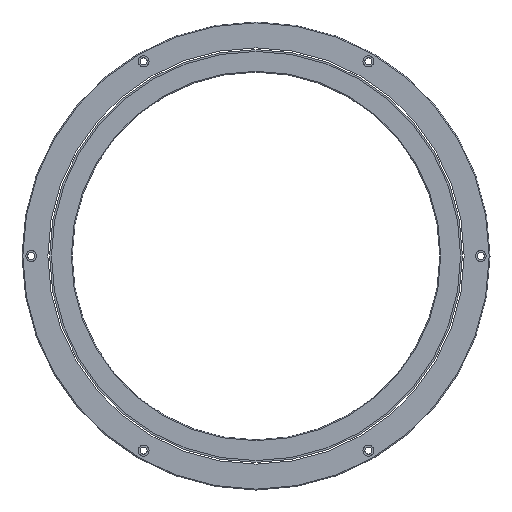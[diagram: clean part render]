
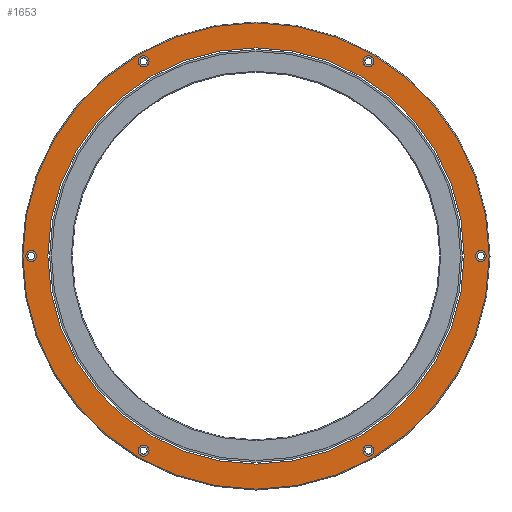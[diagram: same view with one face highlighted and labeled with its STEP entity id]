
A CAD part, front view. The second image highlights one B-rep face of the part: STEP entity #1653.
In plain terms, the highlighted planar face has unit normal (0, -1, 0).
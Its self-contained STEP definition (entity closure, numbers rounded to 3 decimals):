
#371=CARTESIAN_POINT('',(0.,0.,0.));
#372=DIRECTION('',(0.,-1.,0.));
#373=DIRECTION('',(-1.,0.,0.));
#374=AXIS2_PLACEMENT_3D('',#371,#372,#373);
#376=CARTESIAN_POINT('',(0.,0.,0.));
#377=DIRECTION('',(0.,1.,0.));
#378=DIRECTION('',(-1.,0.,0.));
#379=AXIS2_PLACEMENT_3D('',#376,#377,#378);
#381=CARTESIAN_POINT('',(-134.5,0.,0.));
#382=DIRECTION('',(0.,1.,0.));
#383=DIRECTION('',(1.,0.,0.));
#384=AXIS2_PLACEMENT_3D('',#381,#382,#383);
#386=CARTESIAN_POINT('',(-134.5,0.,0.));
#387=DIRECTION('',(0.,1.,0.));
#388=DIRECTION('',(-1.,0.,0.));
#389=AXIS2_PLACEMENT_3D('',#386,#387,#388);
#391=CARTESIAN_POINT('',(-67.25,0.,116.48));
#392=DIRECTION('',(0.,1.,0.));
#393=DIRECTION('',(0.5,0.,-0.866));
#394=AXIS2_PLACEMENT_3D('',#391,#392,#393);
#396=CARTESIAN_POINT('',(-67.25,0.,116.48));
#397=DIRECTION('',(0.,1.,0.));
#398=DIRECTION('',(-0.5,0.,0.866));
#399=AXIS2_PLACEMENT_3D('',#396,#397,#398);
#401=CARTESIAN_POINT('',(67.25,0.,116.48));
#402=DIRECTION('',(0.,1.,0.));
#403=DIRECTION('',(-0.5,0.,-0.866));
#404=AXIS2_PLACEMENT_3D('',#401,#402,#403);
#406=CARTESIAN_POINT('',(67.25,0.,116.48));
#407=DIRECTION('',(0.,1.,0.));
#408=DIRECTION('',(0.5,0.,0.866));
#409=AXIS2_PLACEMENT_3D('',#406,#407,#408);
#411=CARTESIAN_POINT('',(134.5,0.,0.));
#412=DIRECTION('',(0.,1.,0.));
#413=DIRECTION('',(-1.,0.,0.));
#414=AXIS2_PLACEMENT_3D('',#411,#412,#413);
#416=CARTESIAN_POINT('',(134.5,0.,0.));
#417=DIRECTION('',(0.,1.,0.));
#418=DIRECTION('',(1.,0.,0.));
#419=AXIS2_PLACEMENT_3D('',#416,#417,#418);
#421=CARTESIAN_POINT('',(67.25,0.,-116.48));
#422=DIRECTION('',(0.,1.,0.));
#423=DIRECTION('',(-0.5,0.,0.866));
#424=AXIS2_PLACEMENT_3D('',#421,#422,#423);
#426=CARTESIAN_POINT('',(67.25,0.,-116.48));
#427=DIRECTION('',(0.,1.,0.));
#428=DIRECTION('',(0.5,0.,-0.866));
#429=AXIS2_PLACEMENT_3D('',#426,#427,#428);
#431=CARTESIAN_POINT('',(-67.25,0.,-116.48));
#432=DIRECTION('',(0.,1.,0.));
#433=DIRECTION('',(0.5,0.,0.866));
#434=AXIS2_PLACEMENT_3D('',#431,#432,#433);
#436=CARTESIAN_POINT('',(-67.25,0.,-116.48));
#437=DIRECTION('',(0.,1.,0.));
#438=DIRECTION('',(-0.5,0.,-0.866));
#439=AXIS2_PLACEMENT_3D('',#436,#437,#438);
#441=CARTESIAN_POINT('',(0.,0.,0.));
#442=DIRECTION('',(0.,1.,0.));
#443=DIRECTION('',(-1.,0.,0.));
#444=AXIS2_PLACEMENT_3D('',#441,#442,#443);
#446=CARTESIAN_POINT('',(0.,0.,0.));
#447=DIRECTION('',(0.,1.,0.));
#448=DIRECTION('',(1.,0.,0.));
#449=AXIS2_PLACEMENT_3D('',#446,#447,#448);
#919=CARTESIAN_POINT('',(-131.25,0.,0.));
#920=VERTEX_POINT('',#919);
#921=CARTESIAN_POINT('',(-137.75,0.,0.));
#922=VERTEX_POINT('',#921);
#931=CARTESIAN_POINT('',(-65.625,0.,113.666));
#932=VERTEX_POINT('',#931);
#933=CARTESIAN_POINT('',(-68.875,0.,119.295));
#934=VERTEX_POINT('',#933);
#943=CARTESIAN_POINT('',(65.625,0.,113.666));
#944=VERTEX_POINT('',#943);
#945=CARTESIAN_POINT('',(68.875,0.,119.295));
#946=VERTEX_POINT('',#945);
#955=CARTESIAN_POINT('',(131.25,0.,0.));
#956=VERTEX_POINT('',#955);
#957=CARTESIAN_POINT('',(137.75,0.,0.));
#958=VERTEX_POINT('',#957);
#976=CARTESIAN_POINT('',(-124.5,0.,0.));
#978=VERTEX_POINT('',#976);
#980=CARTESIAN_POINT('',(124.5,0.,0.));
#982=VERTEX_POINT('',#980);
#995=CARTESIAN_POINT('',(-139.5,0.,0.));
#996=CARTESIAN_POINT('',(139.5,0.,0.));
#997=VERTEX_POINT('',#995);
#998=VERTEX_POINT('',#996);
#1043=CARTESIAN_POINT('',(65.625,0.,-113.666));
#1044=CARTESIAN_POINT('',(68.875,0.,-119.295));
#1045=VERTEX_POINT('',#1043);
#1046=VERTEX_POINT('',#1044);
#1055=CARTESIAN_POINT('',(-65.625,0.,-113.666));
#1056=CARTESIAN_POINT('',(-68.875,0.,-119.295));
#1057=VERTEX_POINT('',#1055);
#1058=VERTEX_POINT('',#1056);
#1604=CARTESIAN_POINT('',(0.,0.,0.));
#1605=DIRECTION('',(0.,1.,0.));
#1606=DIRECTION('',(1.,0.,0.));
#1607=AXIS2_PLACEMENT_3D('',#1604,#1605,#1606);
#1608=PLANE('',#1607);
#1609=ORIENTED_EDGE('',*,*,#1090,.T.);
#1610=ORIENTED_EDGE('',*,*,#1105,.T.);
#1611=EDGE_LOOP('',(#1609,#1610));
#1612=FACE_OUTER_BOUND('',#1611,.F.);
#1614=ORIENTED_EDGE('',*,*,#1613,.F.);
#1616=ORIENTED_EDGE('',*,*,#1615,.F.);
#1617=EDGE_LOOP('',(#1614,#1616));
#1618=FACE_BOUND('',#1617,.F.);
#1620=ORIENTED_EDGE('',*,*,#1619,.F.);
#1622=ORIENTED_EDGE('',*,*,#1621,.F.);
#1623=EDGE_LOOP('',(#1620,#1622));
#1624=FACE_BOUND('',#1623,.F.);
#1626=ORIENTED_EDGE('',*,*,#1625,.F.);
#1628=ORIENTED_EDGE('',*,*,#1627,.F.);
#1629=EDGE_LOOP('',(#1626,#1628));
#1630=FACE_BOUND('',#1629,.F.);
#1632=ORIENTED_EDGE('',*,*,#1631,.F.);
#1634=ORIENTED_EDGE('',*,*,#1633,.F.);
#1635=EDGE_LOOP('',(#1632,#1634));
#1636=FACE_BOUND('',#1635,.F.);
#1638=ORIENTED_EDGE('',*,*,#1637,.F.);
#1640=ORIENTED_EDGE('',*,*,#1639,.F.);
#1641=EDGE_LOOP('',(#1638,#1640));
#1642=FACE_BOUND('',#1641,.F.);
#1644=ORIENTED_EDGE('',*,*,#1643,.F.);
#1646=ORIENTED_EDGE('',*,*,#1645,.F.);
#1647=EDGE_LOOP('',(#1644,#1646));
#1648=FACE_BOUND('',#1647,.F.);
#1649=ORIENTED_EDGE('',*,*,#1599,.T.);
#1650=ORIENTED_EDGE('',*,*,#1583,.F.);
#1651=EDGE_LOOP('',(#1649,#1650));
#1652=FACE_BOUND('',#1651,.F.);
#375=CIRCLE('',#374,124.5);
#380=CIRCLE('',#379,124.5);
#385=CIRCLE('',#384,3.25);
#390=CIRCLE('',#389,3.25);
#395=CIRCLE('',#394,3.25);
#400=CIRCLE('',#399,3.25);
#405=CIRCLE('',#404,3.25);
#410=CIRCLE('',#409,3.25);
#415=CIRCLE('',#414,3.25);
#420=CIRCLE('',#419,3.25);
#425=CIRCLE('',#424,3.25);
#430=CIRCLE('',#429,3.25);
#435=CIRCLE('',#434,3.25);
#440=CIRCLE('',#439,3.25);
#445=CIRCLE('',#444,139.5);
#450=CIRCLE('',#449,139.5);
#1090=EDGE_CURVE('',#997,#998,#445,.T.);
#1105=EDGE_CURVE('',#998,#997,#450,.T.);
#1583=EDGE_CURVE('',#978,#982,#380,.T.);
#1599=EDGE_CURVE('',#978,#982,#375,.T.);
#1613=EDGE_CURVE('',#920,#922,#385,.T.);
#1615=EDGE_CURVE('',#922,#920,#390,.T.);
#1619=EDGE_CURVE('',#932,#934,#395,.T.);
#1621=EDGE_CURVE('',#934,#932,#400,.T.);
#1625=EDGE_CURVE('',#944,#946,#405,.T.);
#1627=EDGE_CURVE('',#946,#944,#410,.T.);
#1631=EDGE_CURVE('',#956,#958,#415,.T.);
#1633=EDGE_CURVE('',#958,#956,#420,.T.);
#1637=EDGE_CURVE('',#1045,#1046,#425,.T.);
#1639=EDGE_CURVE('',#1046,#1045,#430,.T.);
#1643=EDGE_CURVE('',#1057,#1058,#435,.T.);
#1645=EDGE_CURVE('',#1058,#1057,#440,.T.);
#1653=ADVANCED_FACE('',(#1612,#1618,#1624,#1630,#1636,#1642,#1648,#1652),#1608,
.F.);
